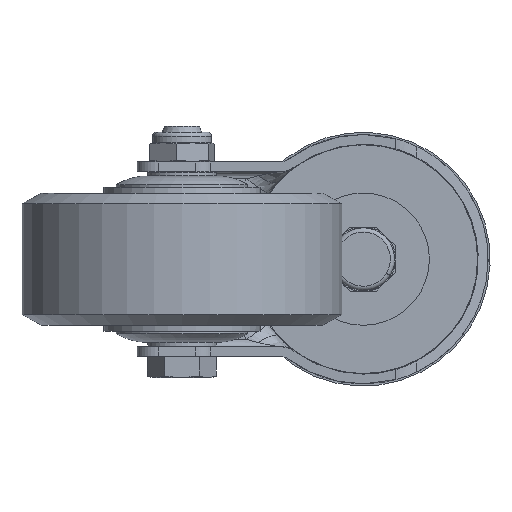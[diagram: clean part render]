
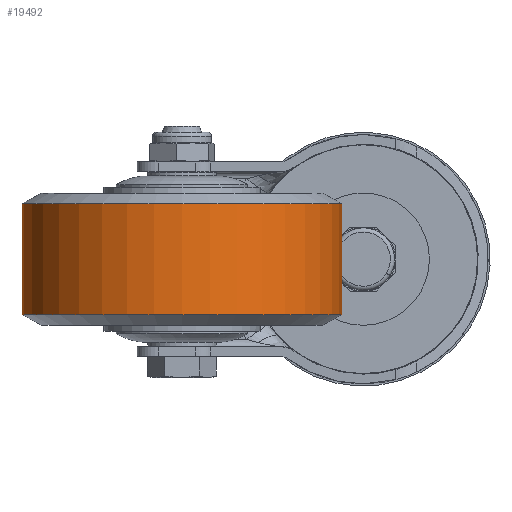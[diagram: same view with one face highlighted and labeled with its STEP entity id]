
A CAD part, front view. The second image highlights one B-rep face of the part: STEP entity #19492.
In plain terms, the highlighted cylindrical face has radius 37.5 mm (diameter 75 mm), a partial arc.
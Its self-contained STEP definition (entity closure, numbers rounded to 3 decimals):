
#82 = VERTEX_POINT ( 'NONE', #14380 ) ;
#102 = CARTESIAN_POINT ( 'NONE',  ( -13., 0., 37.5 ) ) ;
#690 = EDGE_LOOP ( 'NONE', ( #9583, #2062, #17622, #14234 ) ) ;
#1140 = LINE ( 'NONE', #4974, #21590 ) ;
#1685 = DIRECTION ( 'NONE',  ( 0., 0., -1. ) ) ;
#2022 = VECTOR ( 'NONE', #23808, 1000. ) ;
#2062 = ORIENTED_EDGE ( 'NONE', *, *, #23385, .T. ) ;
#2725 = CARTESIAN_POINT ( 'NONE',  ( 0., 0., 37.5 ) ) ;
#2805 = VERTEX_POINT ( 'NONE', #5979 ) ;
#2863 = DIRECTION ( 'NONE',  ( -1., 0., 0. ) ) ;
#3214 = DIRECTION ( 'NONE',  ( 1., 0., 0. ) ) ;
#3549 = FACE_OUTER_BOUND ( 'NONE', #690, .T. ) ;
#4180 = CARTESIAN_POINT ( 'NONE',  ( 13., 0., -37.5 ) ) ;
#4711 = DIRECTION ( 'NONE',  ( 0., 0., -1. ) ) ;
#4974 = CARTESIAN_POINT ( 'NONE',  ( 0., 0., -37.5 ) ) ;
#5979 = CARTESIAN_POINT ( 'NONE',  ( -13., 0., -37.5 ) ) ;
#6159 = VERTEX_POINT ( 'NONE', #4180 ) ;
#6811 = LINE ( 'NONE', #2725, #2022 ) ;
#7425 = AXIS2_PLACEMENT_3D ( 'NONE', #21911, #18561, #1685 ) ;
#9036 = EDGE_CURVE ( 'NONE', #10141, #2805, #20111, .T. ) ;
#9113 = AXIS2_PLACEMENT_3D ( 'NONE', #15620, #11937, #14149 ) ;
#9517 = AXIS2_PLACEMENT_3D ( 'NONE', #21711, #3214, #4711 ) ;
#9583 = ORIENTED_EDGE ( 'NONE', *, *, #23417, .F. ) ;
#10141 = VERTEX_POINT ( 'NONE', #102 ) ;
#11937 = DIRECTION ( 'NONE',  ( 1., 0., 0. ) ) ;
#14149 = DIRECTION ( 'NONE',  ( 0., 0., -1. ) ) ;
#14234 = ORIENTED_EDGE ( 'NONE', *, *, #19951, .F. ) ;
#14380 = CARTESIAN_POINT ( 'NONE',  ( 13., 0., 37.5 ) ) ;
#14392 = CYLINDRICAL_SURFACE ( 'NONE', #7425, 37.5 ) ;
#15620 = CARTESIAN_POINT ( 'NONE',  ( -13., 0., 0. ) ) ;
#17622 = ORIENTED_EDGE ( 'NONE', *, *, #9036, .T. ) ;
#18561 = DIRECTION ( 'NONE',  ( -1., 0., 0. ) ) ;
#19492 = ADVANCED_FACE ( 'NONE', ( #3549 ), #14392, .T. ) ;
#19951 = EDGE_CURVE ( 'NONE', #6159, #2805, #1140, .T. ) ;
#20111 = CIRCLE ( 'NONE', #9113, 37.5 ) ;
#21590 = VECTOR ( 'NONE', #2863, 1000. ) ;
#21711 = CARTESIAN_POINT ( 'NONE',  ( 13., 0., 0. ) ) ;
#21911 = CARTESIAN_POINT ( 'NONE',  ( 0., 0., 0. ) ) ;
#23385 = EDGE_CURVE ( 'NONE', #82, #10141, #6811, .T. ) ;
#23417 = EDGE_CURVE ( 'NONE', #82, #6159, #23688, .T. ) ;
#23688 = CIRCLE ( 'NONE', #9517, 37.5 ) ;
#23808 = DIRECTION ( 'NONE',  ( -1., 0., 0. ) ) ;
